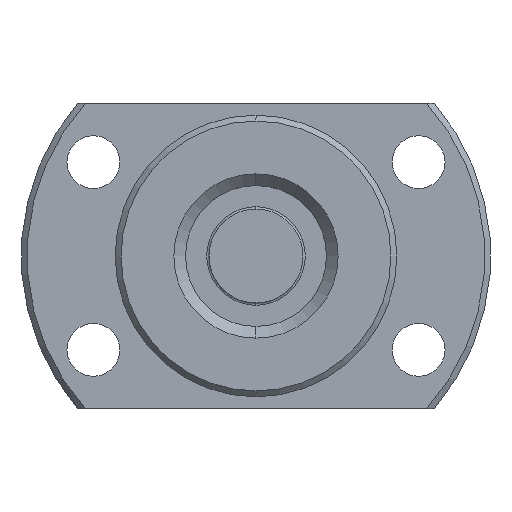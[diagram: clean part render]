
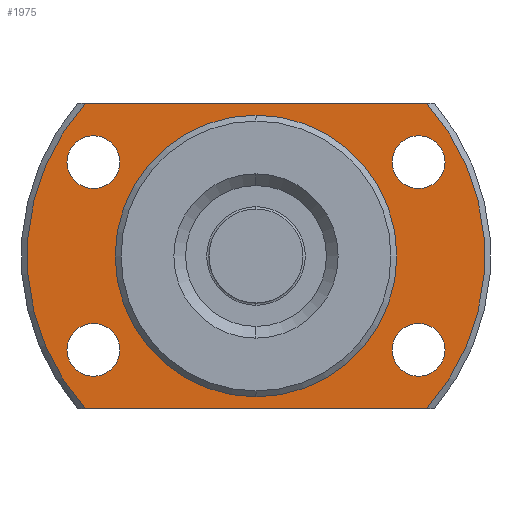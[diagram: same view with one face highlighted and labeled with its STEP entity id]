
A CAD part, left-side view. The second image highlights one B-rep face of the part: STEP entity #1975.
In plain terms, the highlighted planar face has unit normal (-1, 0, 0) as drawn and (1, 0, 0) by its records, which use the part's own axes.
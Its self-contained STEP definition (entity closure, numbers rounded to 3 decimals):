
#7 = ORIENTED_EDGE ( 'NONE', *, *, #937, .T. ) ;
#25 = ORIENTED_EDGE ( 'NONE', *, *, #1033, .T. ) ;
#82 = ORIENTED_EDGE ( 'NONE', *, *, #700, .T. ) ;
#107 = CARTESIAN_POINT ( 'NONE',  ( 8., 11.908, 9.125 ) ) ;
#140 = CARTESIAN_POINT ( 'NONE',  ( 8., 0., 0. ) ) ;
#154 = DIRECTION ( 'NONE',  ( 0., 0., -1. ) ) ;
#189 = CARTESIAN_POINT ( 'NONE',  ( 8., -14.534, -13. ) ) ;
#192 = CARTESIAN_POINT ( 'NONE',  ( 8., 0., 0. ) ) ;
#202 = VERTEX_POINT ( 'NONE', #1051 ) ;
#208 = CIRCLE ( 'NONE', #1833, 2.25 ) ;
#213 = CIRCLE ( 'NONE', #699, 19.5 ) ;
#220 = EDGE_CURVE ( 'NONE', #1774, #775, #1359, .T. ) ;
#263 = DIRECTION ( 'NONE',  ( 1., 0., 0. ) ) ;
#272 = CARTESIAN_POINT ( 'NONE',  ( 8., -13.856, 10.25 ) ) ;
#275 = VECTOR ( 'NONE', #1438, 1000. ) ;
#295 = ORIENTED_EDGE ( 'NONE', *, *, #446, .T. ) ;
#305 = AXIS2_PLACEMENT_3D ( 'NONE', #1693, #453, #154 ) ;
#307 = DIRECTION ( 'NONE',  ( -1., 0., 0. ) ) ;
#308 = CARTESIAN_POINT ( 'NONE',  ( 8., 13.856, -5.75 ) ) ;
#321 = CARTESIAN_POINT ( 'NONE',  ( 8., -14.534, 13. ) ) ;
#333 = DIRECTION ( 'NONE',  ( 1., 0., 0. ) ) ;
#338 = EDGE_CURVE ( 'NONE', #1428, #1814, #213, .T. ) ;
#354 = VERTEX_POINT ( 'NONE', #1717 ) ;
#367 = AXIS2_PLACEMENT_3D ( 'NONE', #537, #386, #525 ) ;
#386 = DIRECTION ( 'NONE',  ( -1., 0., 0. ) ) ;
#392 = EDGE_LOOP ( 'NONE', ( #1402, #82 ) ) ;
#423 = DIRECTION ( 'NONE',  ( 0., 0., -1. ) ) ;
#430 = CIRCLE ( 'NONE', #1695, 19.5 ) ;
#431 = CARTESIAN_POINT ( 'NONE',  ( 8., 13.856, -8. ) ) ;
#437 = CARTESIAN_POINT ( 'NONE',  ( 8., 0., 0. ) ) ;
#444 = ORIENTED_EDGE ( 'NONE', *, *, #819, .T. ) ;
#446 = EDGE_CURVE ( 'NONE', #1764, #1428, #697, .T. ) ;
#453 = DIRECTION ( 'NONE',  ( 1., 0., 0. ) ) ;
#459 = CARTESIAN_POINT ( 'NONE',  ( 8., -13.856, -8. ) ) ;
#478 = AXIS2_PLACEMENT_3D ( 'NONE', #431, #1821, #423 ) ;
#483 = DIRECTION ( 'NONE',  ( 0., 0., -1. ) ) ;
#501 = ORIENTED_EDGE ( 'NONE', *, *, #338, .T. ) ;
#525 = DIRECTION ( 'NONE',  ( 0., 0., -1. ) ) ;
#535 = PLANE ( 'NONE',  #1780 ) ;
#537 = CARTESIAN_POINT ( 'NONE',  ( 8., -13.856, 8. ) ) ;
#545 = ORIENTED_EDGE ( 'NONE', *, *, #220, .T. ) ;
#546 = FACE_BOUND ( 'NONE', #720, .T. ) ;
#562 = DIRECTION ( 'NONE',  ( 0., 1., 0. ) ) ;
#586 = EDGE_LOOP ( 'NONE', ( #545, #444 ) ) ;
#590 = CIRCLE ( 'NONE', #305, 12. ) ;
#604 = DIRECTION ( 'NONE',  ( 0., 0., -1. ) ) ;
#633 = DIRECTION ( 'NONE',  ( -1., 0., 0. ) ) ;
#655 = DIRECTION ( 'NONE',  ( 0., 0., -1. ) ) ;
#664 = LINE ( 'NONE', #1777, #275 ) ;
#682 = VERTEX_POINT ( 'NONE', #272 ) ;
#697 = LINE ( 'NONE', #980, #1512 ) ;
#699 = AXIS2_PLACEMENT_3D ( 'NONE', #192, #333, #655 ) ;
#700 = EDGE_CURVE ( 'NONE', #202, #1803, #1810, .T. ) ;
#701 = AXIS2_PLACEMENT_3D ( 'NONE', #459, #1856, #604 ) ;
#714 = CARTESIAN_POINT ( 'NONE',  ( 8., -13.856, -8. ) ) ;
#715 = CARTESIAN_POINT ( 'NONE',  ( 8., 13.856, 8. ) ) ;
#720 = EDGE_LOOP ( 'NONE', ( #1832, #1409 ) ) ;
#775 = VERTEX_POINT ( 'NONE', #1568 ) ;
#790 = AXIS2_PLACEMENT_3D ( 'NONE', #715, #1482, #1463 ) ;
#792 = CIRCLE ( 'NONE', #1644, 12. ) ;
#802 = CARTESIAN_POINT ( 'NONE',  ( 8., 14.534, -13. ) ) ;
#819 = EDGE_CURVE ( 'NONE', #775, #1774, #1252, .T. ) ;
#825 = ORIENTED_EDGE ( 'NONE', *, *, #1993, .T. ) ;
#846 = DIRECTION ( 'NONE',  ( 0., 0., -1. ) ) ;
#847 = EDGE_LOOP ( 'NONE', ( #1914, #934 ) ) ;
#872 = FACE_BOUND ( 'NONE', #847, .T. ) ;
#934 = ORIENTED_EDGE ( 'NONE', *, *, #1198, .F. ) ;
#937 = EDGE_CURVE ( 'NONE', #1814, #1886, #664, .T. ) ;
#948 = CARTESIAN_POINT ( 'NONE',  ( 8., 0., -12. ) ) ;
#950 = EDGE_CURVE ( 'NONE', #354, #682, #208, .T. ) ;
#953 = CIRCLE ( 'NONE', #1569, 2.25 ) ;
#980 = CARTESIAN_POINT ( 'NONE',  ( 8., 12., -13. ) ) ;
#997 = EDGE_CURVE ( 'NONE', #1803, #202, #953, .T. ) ;
#1008 = VERTEX_POINT ( 'NONE', #1656 ) ;
#1017 = CIRCLE ( 'NONE', #790, 2.25 ) ;
#1033 = EDGE_CURVE ( 'NONE', #1886, #1764, #430, .T. ) ;
#1044 = VERTEX_POINT ( 'NONE', #107 ) ;
#1051 = CARTESIAN_POINT ( 'NONE',  ( 8., -15.805, -6.875 ) ) ;
#1065 = DIRECTION ( 'NONE',  ( 1., 0., 0. ) ) ;
#1115 = EDGE_LOOP ( 'NONE', ( #825, #1498 ) ) ;
#1129 = DIRECTION ( 'NONE',  ( -1., 0., 0. ) ) ;
#1166 = FACE_BOUND ( 'NONE', #586, .T. ) ;
#1183 = DIRECTION ( 'NONE',  ( 0., 0., -1. ) ) ;
#1198 = EDGE_CURVE ( 'NONE', #1200, #1922, #792, .T. ) ;
#1200 = VERTEX_POINT ( 'NONE', #2002 ) ;
#1212 = CIRCLE ( 'NONE', #1347, 2.25 ) ;
#1230 = DIRECTION ( 'NONE',  ( 0., 0., -1. ) ) ;
#1252 = CIRCLE ( 'NONE', #1938, 2.25 ) ;
#1308 = FACE_BOUND ( 'NONE', #392, .T. ) ;
#1339 = EDGE_CURVE ( 'NONE', #1922, #1200, #590, .T. ) ;
#1342 = CARTESIAN_POINT ( 'NONE',  ( 8., 13.856, 8. ) ) ;
#1347 = AXIS2_PLACEMENT_3D ( 'NONE', #1342, #633, #1230 ) ;
#1349 = CARTESIAN_POINT ( 'NONE',  ( 8., 12., 0. ) ) ;
#1359 = CIRCLE ( 'NONE', #478, 2.25 ) ;
#1362 = DIRECTION ( 'NONE',  ( 1., 0., 0. ) ) ;
#1402 = ORIENTED_EDGE ( 'NONE', *, *, #997, .T. ) ;
#1409 = ORIENTED_EDGE ( 'NONE', *, *, #1486, .T. ) ;
#1428 = VERTEX_POINT ( 'NONE', #802 ) ;
#1430 = CARTESIAN_POINT ( 'NONE',  ( 8., 14.534, 13. ) ) ;
#1438 = DIRECTION ( 'NONE',  ( 0., -1., 0. ) ) ;
#1463 = DIRECTION ( 'NONE',  ( 0., 0., -1. ) ) ;
#1480 = DIRECTION ( 'NONE',  ( -1., 0., 0. ) ) ;
#1482 = DIRECTION ( 'NONE',  ( -1., 0., 0. ) ) ;
#1486 = EDGE_CURVE ( 'NONE', #682, #354, #1602, .T. ) ;
#1498 = ORIENTED_EDGE ( 'NONE', *, *, #1757, .T. ) ;
#1512 = VECTOR ( 'NONE', #1591, 1000. ) ;
#1568 = CARTESIAN_POINT ( 'NONE',  ( 8., 13.856, -10.25 ) ) ;
#1569 = AXIS2_PLACEMENT_3D ( 'NONE', #714, #1480, #1985 ) ;
#1591 = DIRECTION ( 'NONE',  ( 0., 1., 0. ) ) ;
#1602 = CIRCLE ( 'NONE', #367, 2.25 ) ;
#1644 = AXIS2_PLACEMENT_3D ( 'NONE', #140, #1065, #483 ) ;
#1656 = CARTESIAN_POINT ( 'NONE',  ( 8., 15.805, 6.875 ) ) ;
#1693 = CARTESIAN_POINT ( 'NONE',  ( 8., 0., 0. ) ) ;
#1694 = EDGE_LOOP ( 'NONE', ( #501, #7, #25, #295 ) ) ;
#1695 = AXIS2_PLACEMENT_3D ( 'NONE', #437, #1362, #1183 ) ;
#1699 = CARTESIAN_POINT ( 'NONE',  ( 8., 13.856, -8. ) ) ;
#1717 = CARTESIAN_POINT ( 'NONE',  ( 8., -13.856, 5.75 ) ) ;
#1757 = EDGE_CURVE ( 'NONE', #1008, #1044, #1212, .T. ) ;
#1764 = VERTEX_POINT ( 'NONE', #189 ) ;
#1774 = VERTEX_POINT ( 'NONE', #308 ) ;
#1777 = CARTESIAN_POINT ( 'NONE',  ( 8., 12., 13. ) ) ;
#1779 = FACE_OUTER_BOUND ( 'NONE', #1694, .T. ) ;
#1780 = AXIS2_PLACEMENT_3D ( 'NONE', #1349, #263, #562 ) ;
#1803 = VERTEX_POINT ( 'NONE', #1897 ) ;
#1810 = CIRCLE ( 'NONE', #701, 2.25 ) ;
#1814 = VERTEX_POINT ( 'NONE', #1430 ) ;
#1821 = DIRECTION ( 'NONE',  ( -1., 0., 0. ) ) ;
#1832 = ORIENTED_EDGE ( 'NONE', *, *, #950, .T. ) ;
#1833 = AXIS2_PLACEMENT_3D ( 'NONE', #1907, #1129, #846 ) ;
#1856 = DIRECTION ( 'NONE',  ( -1., 0., 0. ) ) ;
#1886 = VERTEX_POINT ( 'NONE', #321 ) ;
#1888 = DIRECTION ( 'NONE',  ( 0., 0., -1. ) ) ;
#1897 = CARTESIAN_POINT ( 'NONE',  ( 8., -11.908, -9.125 ) ) ;
#1907 = CARTESIAN_POINT ( 'NONE',  ( 8., -13.856, 8. ) ) ;
#1914 = ORIENTED_EDGE ( 'NONE', *, *, #1339, .F. ) ;
#1922 = VERTEX_POINT ( 'NONE', #948 ) ;
#1938 = AXIS2_PLACEMENT_3D ( 'NONE', #1699, #307, #1888 ) ;
#1967 = FACE_BOUND ( 'NONE', #1115, .T. ) ;
#1975 = ADVANCED_FACE ( 'NONE', ( #1779, #872, #1166, #546, #1308, #1967 ), #535, .T. ) ;
#1985 = DIRECTION ( 'NONE',  ( 0., 0., -1. ) ) ;
#1993 = EDGE_CURVE ( 'NONE', #1044, #1008, #1017, .T. ) ;
#2002 = CARTESIAN_POINT ( 'NONE',  ( 8., 0., 12. ) ) ;
